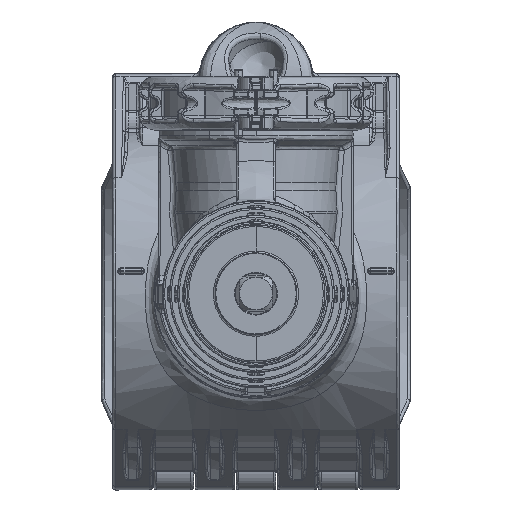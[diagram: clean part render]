
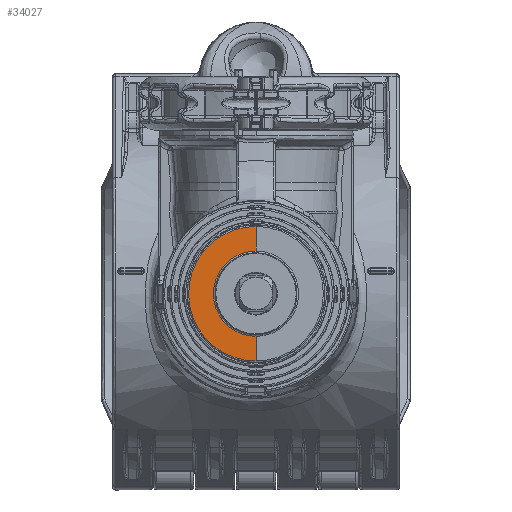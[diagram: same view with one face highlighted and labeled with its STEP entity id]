
A CAD part, top view. The second image highlights one B-rep face of the part: STEP entity #34027.
In plain terms, the highlighted free-form (B-spline) face has degree [1, 1] with [2, 2] control points.
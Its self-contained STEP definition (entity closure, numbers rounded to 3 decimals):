
#34027=ADVANCED_FACE('',(#88773),#88774,.T.);
#73863=VERTEX_POINT('',#129200);
#73871=VERTEX_POINT('',#129208);
#73875=EDGE_CURVE('',#73863,#73871,#129212,.T.);
#73877=VERTEX_POINT('',#129214);
#73879=VERTEX_POINT('',#129216);
#73881=EDGE_CURVE('',#73877,#73879,#129218,.T.);
#73887=VERTEX_POINT('',#129224);
#73891=VERTEX_POINT('',#129228);
#73893=EDGE_CURVE('',#73891,#73887,#129230,.T.);
#73897=EDGE_CURVE('',#73879,#73863,#129234,.T.);
#73899=EDGE_CURVE('',#73871,#73891,#129236,.T.);
#73901=EDGE_CURVE('',#73877,#73887,#129238,.T.);
#88773=FACE_OUTER_BOUND('',#213176,.T.);
#88774=B_SPLINE_SURFACE_WITH_KNOTS('',1,1,((#213177,#213178),(#213179,#213180)),.UNSPECIFIED.,.F.,.F.,.F.,(2,2),(2,2),(0.03,0.981),(0.01,0.99),.UNSPECIFIED.);
#129200=CARTESIAN_POINT('',(-21.663,11.832,135.344));
#129208=CARTESIAN_POINT('',(-11.832,-21.651,135.43));
#129212=B_SPLINE_CURVE_WITH_KNOTS('',5,(#333014,#333015,#333016,#333017,#333018,#333019,#333020,#333021,#333022,#333023,#333024,#333025),.UNSPECIFIED.,.F.,.F.,(6,3,3,6),(0.0,0.356,0.711,1.0),.UNSPECIFIED.);
#129214=CARTESIAN_POINT('',(0.0,15.612,135.533));
#129216=CARTESIAN_POINT('',(0.,24.66,135.533));
#129218=LINE('',#333032,#333033);
#129224=CARTESIAN_POINT('',(0.,-15.612,135.533));
#129228=CARTESIAN_POINT('',(0.,-24.66,135.533));
#129230=LINE('',#333063,#333064);
#129234=B_SPLINE_CURVE_WITH_KNOTS('',5,(#333070,#333071,#333072,#333073,#333074,#333075),.UNSPECIFIED.,.F.,.F.,(6,6),(0.0,1.0),.UNSPECIFIED.);
#129236=B_SPLINE_CURVE_WITH_KNOTS('',4,(#333078,#333079,#333080,#333081,#333082),.UNSPECIFIED.,.F.,.F.,(5,5),(0.0,1.0),.UNSPECIFIED.);
#129238=CIRCLE('',#333085,15.612);
#213176=EDGE_LOOP('',(#363127,#363128,#363129,#363130,#363131,#363132));
#213177=CARTESIAN_POINT('',(-24.757,-24.662,135.317));
#213178=CARTESIAN_POINT('',(-24.757,24.663,135.317));
#213179=CARTESIAN_POINT('',(0.001,-24.662,135.533));
#213180=CARTESIAN_POINT('',(0.001,24.663,135.533));
#333014=CARTESIAN_POINT('',(-21.663,11.832,135.344));
#333015=CARTESIAN_POINT('',(-22.986,9.413,135.332));
#333016=CARTESIAN_POINT('',(-23.97,6.81,135.324));
#333017=CARTESIAN_POINT('',(-24.582,4.084,135.318));
#333018=CARTESIAN_POINT('',(-25.029,-1.466,135.314));
#333019=CARTESIAN_POINT('',(-23.937,-6.926,135.324));
#333020=CARTESIAN_POINT('',(-23.011,-9.561,135.332));
#333021=CARTESIAN_POINT('',(-20.686,-14.039,135.352));
#333022=CARTESIAN_POINT('',(-17.331,-17.784,135.382));
#333023=CARTESIAN_POINT('',(-15.642,-19.284,135.396));
#333024=CARTESIAN_POINT('',(-13.798,-20.579,135.412));
#333025=CARTESIAN_POINT('',(-11.832,-21.651,135.43));
#333032=CARTESIAN_POINT('',(0.0,15.612,135.533));
#333033=VECTOR('',#378000,1.0);
#333063=CARTESIAN_POINT('',(0.0,-24.66,135.533));
#333064=VECTOR('',#378001,1.0);
#333070=CARTESIAN_POINT('',(0.0,24.66,135.533));
#333071=CARTESIAN_POINT('',(-5.283,24.666,135.487));
#333072=CARTESIAN_POINT('',(-10.568,23.258,135.441));
#333073=CARTESIAN_POINT('',(-15.349,20.428,135.399));
#333074=CARTESIAN_POINT('',(-19.127,16.47,135.366));
#333075=CARTESIAN_POINT('',(-21.663,11.832,135.344));
#333078=CARTESIAN_POINT('',(-11.832,-21.651,135.43));
#333079=CARTESIAN_POINT('',(-9.124,-23.127,135.453));
#333080=CARTESIAN_POINT('',(-6.169,-24.152,135.479));
#333081=CARTESIAN_POINT('',(-3.084,-24.663,135.506));
#333082=CARTESIAN_POINT('',(0.0,-24.66,135.533));
#333085=AXIS2_PLACEMENT_3D('',#378005,#378006,#378007);
#363127=ORIENTED_EDGE('',*,*,#73881,.T.);
#363128=ORIENTED_EDGE('',*,*,#73897,.T.);
#363129=ORIENTED_EDGE('',*,*,#73875,.T.);
#363130=ORIENTED_EDGE('',*,*,#73899,.T.);
#363131=ORIENTED_EDGE('',*,*,#73893,.T.);
#363132=ORIENTED_EDGE('',*,*,#73901,.F.);
#378000=DIRECTION('',(0.0,1.0,0.0));
#378001=DIRECTION('',(0.0,1.0,0.0));
#378005=CARTESIAN_POINT('',(0.003,0.,135.533));
#378006=DIRECTION('',(-0.009,0.,1.));
#378007=DIRECTION('',(0.,1.,0.));
